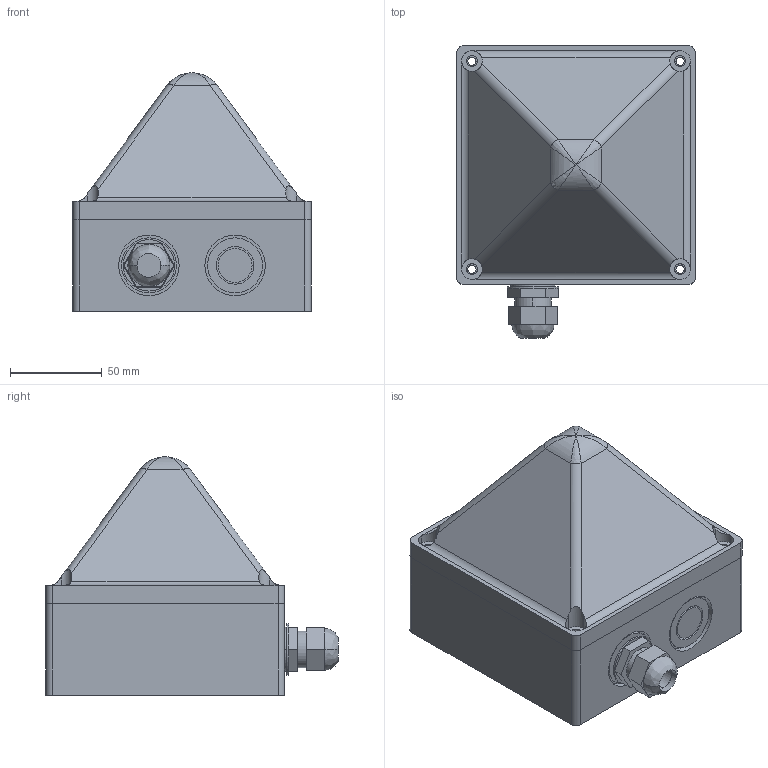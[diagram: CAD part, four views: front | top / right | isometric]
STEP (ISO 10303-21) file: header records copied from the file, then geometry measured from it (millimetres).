
FILE_DESCRIPTION (( 'STEP AP214' ), '1' );
FILE_NAME ('QUADRO F12_with cable gland left.STEP', '2008-08-29T07:21:39', ( 'Pfannenberg' ), ( 'Pfannenberg GmbH' ), 'SwSTEP 2.0', 'SolidWorks 2007', '' );
FILE_SCHEMA (( 'AUTOMOTIVE_DESIGN' ));
Length unit declared in the file: millimetre
Products named in the file (1): QUADRO F12_with cable gland left
Bounding box: 130.09 x 159.37 x 130 mm (x, y, z)
Volume: 1400299.4 mm3; surface area: 123186.4 mm2
Topology: 5 solids, 6 shells, 288 faces, 729 edges, 468 vertices
Faces by surface type: plane 140, cylinder 128, bspline 18, cone 2
Entity records: 10590 total; most frequent: CARTESIAN_POINT 3548, DIRECTION 1460, ORIENTED_EDGE 1450, EDGE_CURVE 725, AXIS2_PLACEMENT_3D 526, VERTEX_POINT 468, VECTOR 408, LINE 408
